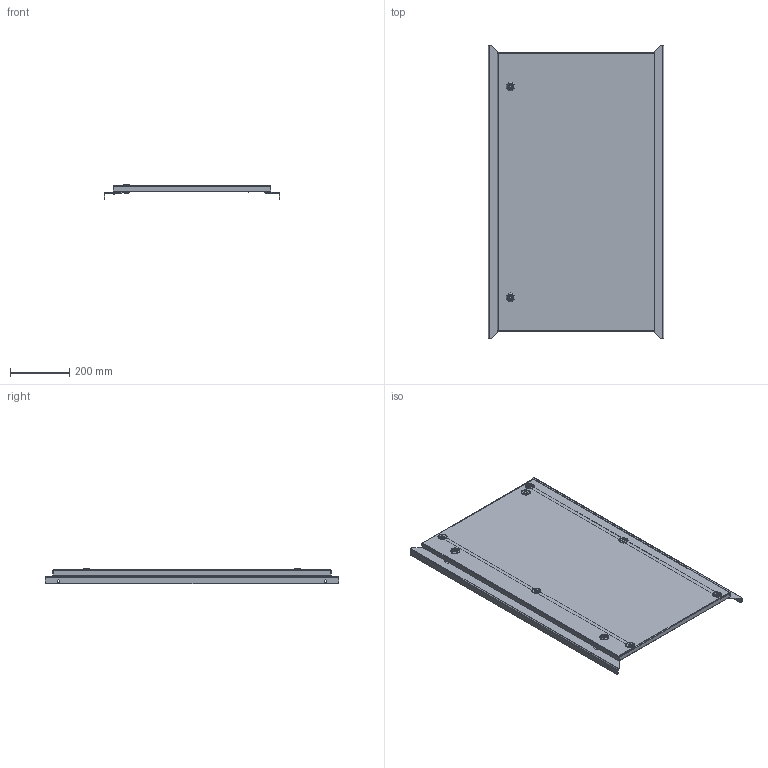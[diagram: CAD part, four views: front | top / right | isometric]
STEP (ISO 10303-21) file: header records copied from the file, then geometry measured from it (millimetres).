
FILE_DESCRIPTION (( 'STEP AP214' ), '1' );
FILE_NAME ('DVC 100.60.STEP', '2024-01-12T15:12:13', ( '' ), ( '' ), 'SwSTEP 2.0', 'SolidWorks 2019', '' );
FILE_SCHEMA (( 'AUTOMOTIVE_DESIGN' ));
Length unit declared in the file: millimetre
Products named in the file (1): DVC 100.60
Bounding box: 593 x 990 x 52.85 mm (x, y, z)
Volume: 1241540.8 mm3; surface area: 1642973.5 mm2
Topology: 37 solids, 37 shells, 1731 faces, 4350 edges, 2729 vertices
Faces by surface type: cylinder 754, plane 623, cone 188, bspline 102, torus 52, sphere 12
Entity records: 105782 total; most frequent: CARTESIAN_POINT 45912, ORIENTED_EDGE 8672, DIRECTION 8166, EDGE_CURVE 4336, AXIS2_PLACEMENT_3D 3105, VERTEX_POINT 2729, EDGE_LOOP 1989, VECTOR 1956
